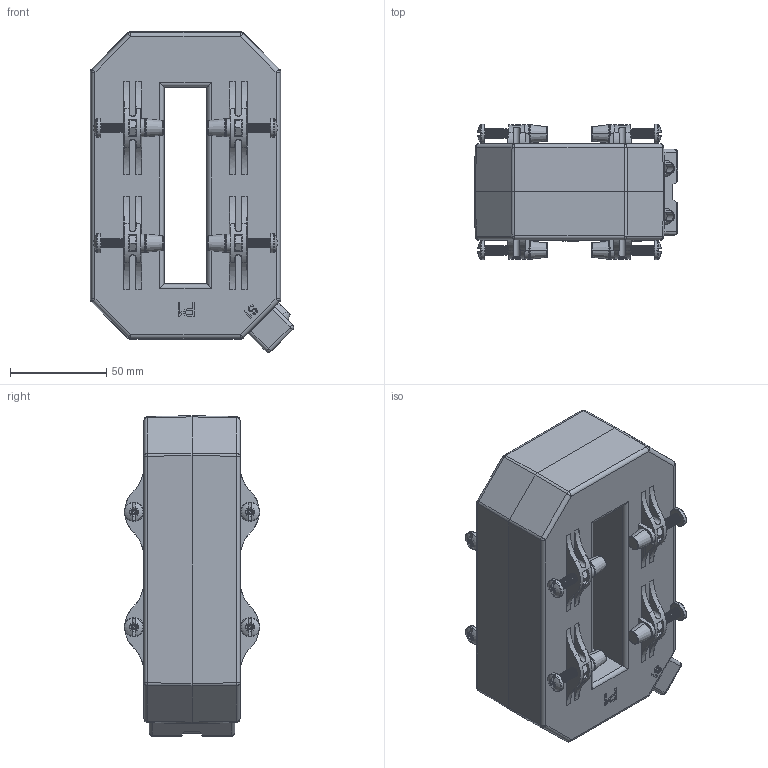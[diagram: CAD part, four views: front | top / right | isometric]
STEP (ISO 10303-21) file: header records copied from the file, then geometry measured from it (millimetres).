
FILE_DESCRIPTION((''),'2;1');
FILE_NAME('TRM400_ASM_SW0001','2024-06-03T12:46:51',('lesquembri'),(''),'CREO PARAMETRIC BY PTC INC, 2018260','CREO PARAMETRIC BY PTC INC, 2018260','');
FILE_SCHEMA(('AUTOMOTIVE_DESIGN { 1 0 10303 214 1 1 1 1 }'));
Products named in the file (1): TRM400_ASM_SW0001
Bounding box: 105.76 x 70.5 x 166.76 mm (x, y, z)
Volume: 656875.3 mm3; surface area: 85552.9 mm2
Topology: 1 solids, 31 shells, 2741 faces, 7155 edges, 4482 vertices
Faces by surface type: cone 1020, plane 1001, cylinder 610, torus 80, sphere 30
Entity records: 94974 total; most frequent: CARTESIAN_POINT 25144, DIRECTION 14691, ORIENTED_EDGE 14238, EDGE_CURVE 7119, AXIS2_PLACEMENT_3D 5567, VERTEX_POINT 4482, VECTOR 3557, LINE 3557
